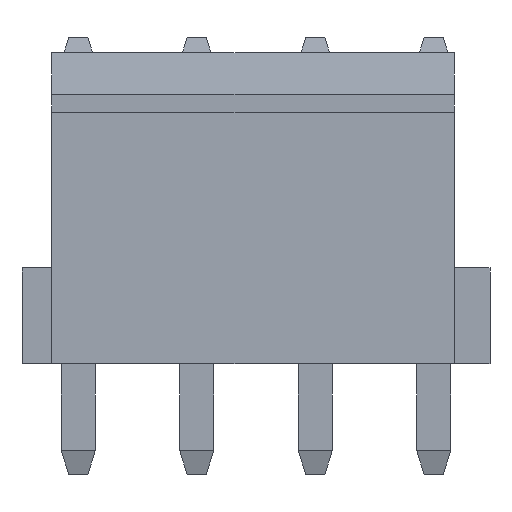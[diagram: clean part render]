
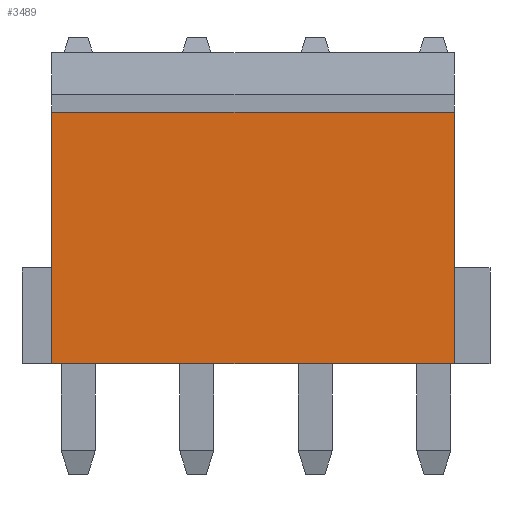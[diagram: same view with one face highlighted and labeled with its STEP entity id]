
A CAD part, left-side view. The second image highlights one B-rep face of the part: STEP entity #3489.
In plain terms, the highlighted planar face has unit normal (-1, 0, 0).
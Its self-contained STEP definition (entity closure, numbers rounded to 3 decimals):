
#1104 = PLANE('',#1105);
#1105 = AXIS2_PLACEMENT_3D('',#1106,#1107,#1108);
#1106 = CARTESIAN_POINT('',(-3.2,-0.68,0.));
#1107 = DIRECTION('',(0.,1.,0.));
#1108 = DIRECTION('',(0.,0.,1.));
#1208 = PLANE('',#1209);
#1209 = AXIS2_PLACEMENT_3D('',#1210,#1211,#1212);
#1210 = CARTESIAN_POINT('',(-3.2,12.76,0.));
#1211 = DIRECTION('',(0.,1.,0.));
#1212 = DIRECTION('',(0.,0.,1.));
#2052 = VERTEX_POINT('',#2053);
#2053 = CARTESIAN_POINT('',(-3.2,-0.68,0.));
#2067 = PLANE('',#2068);
#2068 = AXIS2_PLACEMENT_3D('',#2069,#2070,#2071);
#2069 = CARTESIAN_POINT('',(-3.2,-0.68,0.));
#2070 = DIRECTION('',(0.,0.,1.));
#2071 = DIRECTION('',(1.,0.,0.));
#2079 = EDGE_CURVE('',#2052,#2080,#2082,.T.);
#2080 = VERTEX_POINT('',#2081);
#2081 = CARTESIAN_POINT('',(-3.2,-0.68,8.4));
#2082 = SURFACE_CURVE('',#2083,(#2087,#2094),.PCURVE_S1.);
#2083 = LINE('',#2084,#2085);
#2084 = CARTESIAN_POINT('',(-3.2,-0.68,0.));
#2085 = VECTOR('',#2086,1.);
#2086 = DIRECTION('',(0.,0.,1.));
#2087 = PCURVE('',#1104,#2088);
#2088 = DEFINITIONAL_REPRESENTATION('',(#2089),#2093);
#2089 = LINE('',#2090,#2091);
#2090 = CARTESIAN_POINT('',(0.,0.));
#2091 = VECTOR('',#2092,1.);
#2092 = DIRECTION('',(1.,0.));
#2093 = ( GEOMETRIC_REPRESENTATION_CONTEXT(2) 
PARAMETRIC_REPRESENTATION_CONTEXT() REPRESENTATION_CONTEXT('2D SPACE',''
  ) );
#2094 = PCURVE('',#2095,#2100);
#2095 = PLANE('',#2096);
#2096 = AXIS2_PLACEMENT_3D('',#2097,#2098,#2099);
#2097 = CARTESIAN_POINT('',(-3.2,-0.68,0.));
#2098 = DIRECTION('',(1.,0.,0.));
#2099 = DIRECTION('',(0.,0.,1.));
#2100 = DEFINITIONAL_REPRESENTATION('',(#2101),#2105);
#2101 = LINE('',#2102,#2103);
#2102 = CARTESIAN_POINT('',(0.,0.));
#2103 = VECTOR('',#2104,1.);
#2104 = DIRECTION('',(1.,0.));
#2105 = ( GEOMETRIC_REPRESENTATION_CONTEXT(2) 
PARAMETRIC_REPRESENTATION_CONTEXT() REPRESENTATION_CONTEXT('2D SPACE',''
  ) );
#2705 = VERTEX_POINT('',#2706);
#2706 = CARTESIAN_POINT('',(-3.2,12.76,0.));
#2727 = EDGE_CURVE('',#2705,#2728,#2730,.T.);
#2728 = VERTEX_POINT('',#2729);
#2729 = CARTESIAN_POINT('',(-3.2,12.76,8.4));
#2730 = SURFACE_CURVE('',#2731,(#2735,#2742),.PCURVE_S1.);
#2731 = LINE('',#2732,#2733);
#2732 = CARTESIAN_POINT('',(-3.2,12.76,0.));
#2733 = VECTOR('',#2734,1.);
#2734 = DIRECTION('',(0.,0.,1.));
#2735 = PCURVE('',#1208,#2736);
#2736 = DEFINITIONAL_REPRESENTATION('',(#2737),#2741);
#2737 = LINE('',#2738,#2739);
#2738 = CARTESIAN_POINT('',(0.,0.));
#2739 = VECTOR('',#2740,1.);
#2740 = DIRECTION('',(1.,0.));
#2741 = ( GEOMETRIC_REPRESENTATION_CONTEXT(2) 
PARAMETRIC_REPRESENTATION_CONTEXT() REPRESENTATION_CONTEXT('2D SPACE',''
  ) );
#2742 = PCURVE('',#2095,#2743);
#2743 = DEFINITIONAL_REPRESENTATION('',(#2744),#2748);
#2744 = LINE('',#2745,#2746);
#2745 = CARTESIAN_POINT('',(0.,-13.44));
#2746 = VECTOR('',#2747,1.);
#2747 = DIRECTION('',(1.,0.));
#2748 = ( GEOMETRIC_REPRESENTATION_CONTEXT(2) 
PARAMETRIC_REPRESENTATION_CONTEXT() REPRESENTATION_CONTEXT('2D SPACE',''
  ) );
#3379 = EDGE_CURVE('',#2052,#2705,#3380,.T.);
#3380 = SURFACE_CURVE('',#3381,(#3385,#3392),.PCURVE_S1.);
#3381 = LINE('',#3382,#3383);
#3382 = CARTESIAN_POINT('',(-3.2,-0.68,0.));
#3383 = VECTOR('',#3384,1.);
#3384 = DIRECTION('',(0.,1.,0.));
#3385 = PCURVE('',#2067,#3386);
#3386 = DEFINITIONAL_REPRESENTATION('',(#3387),#3391);
#3387 = LINE('',#3388,#3389);
#3388 = CARTESIAN_POINT('',(0.,0.));
#3389 = VECTOR('',#3390,1.);
#3390 = DIRECTION('',(0.,1.));
#3391 = ( GEOMETRIC_REPRESENTATION_CONTEXT(2) 
PARAMETRIC_REPRESENTATION_CONTEXT() REPRESENTATION_CONTEXT('2D SPACE',''
  ) );
#3392 = PCURVE('',#2095,#3393);
#3393 = DEFINITIONAL_REPRESENTATION('',(#3394),#3398);
#3394 = LINE('',#3395,#3396);
#3395 = CARTESIAN_POINT('',(0.,0.));
#3396 = VECTOR('',#3397,1.);
#3397 = DIRECTION('',(0.,-1.));
#3398 = ( GEOMETRIC_REPRESENTATION_CONTEXT(2) 
PARAMETRIC_REPRESENTATION_CONTEXT() REPRESENTATION_CONTEXT('2D SPACE',''
  ) );
#3422 = PLANE('',#3423);
#3423 = AXIS2_PLACEMENT_3D('',#3424,#3425,#3426);
#3424 = CARTESIAN_POINT('',(-3.8,-0.68,8.4));
#3425 = DIRECTION('',(0.,0.,1.));
#3426 = DIRECTION('',(1.,0.,0.));
#3489 = ADVANCED_FACE('',(#3490),#2095,.F.);
#3490 = FACE_BOUND('',#3491,.F.);
#3491 = EDGE_LOOP('',(#3492,#3493,#3494,#3495));
#3492 = ORIENTED_EDGE('',*,*,#2079,.F.);
#3493 = ORIENTED_EDGE('',*,*,#3379,.T.);
#3494 = ORIENTED_EDGE('',*,*,#2727,.T.);
#3495 = ORIENTED_EDGE('',*,*,#3496,.F.);
#3496 = EDGE_CURVE('',#2080,#2728,#3497,.T.);
#3497 = SURFACE_CURVE('',#3498,(#3502,#3509),.PCURVE_S1.);
#3498 = LINE('',#3499,#3500);
#3499 = CARTESIAN_POINT('',(-3.2,-0.68,8.4));
#3500 = VECTOR('',#3501,1.);
#3501 = DIRECTION('',(0.,1.,0.));
#3502 = PCURVE('',#2095,#3503);
#3503 = DEFINITIONAL_REPRESENTATION('',(#3504),#3508);
#3504 = LINE('',#3505,#3506);
#3505 = CARTESIAN_POINT('',(8.4,0.));
#3506 = VECTOR('',#3507,1.);
#3507 = DIRECTION('',(0.,-1.));
#3508 = ( GEOMETRIC_REPRESENTATION_CONTEXT(2) 
PARAMETRIC_REPRESENTATION_CONTEXT() REPRESENTATION_CONTEXT('2D SPACE',''
  ) );
#3509 = PCURVE('',#3422,#3510);
#3510 = DEFINITIONAL_REPRESENTATION('',(#3511),#3515);
#3511 = LINE('',#3512,#3513);
#3512 = CARTESIAN_POINT('',(0.6,0.));
#3513 = VECTOR('',#3514,1.);
#3514 = DIRECTION('',(0.,1.));
#3515 = ( GEOMETRIC_REPRESENTATION_CONTEXT(2) 
PARAMETRIC_REPRESENTATION_CONTEXT() REPRESENTATION_CONTEXT('2D SPACE',''
  ) );
